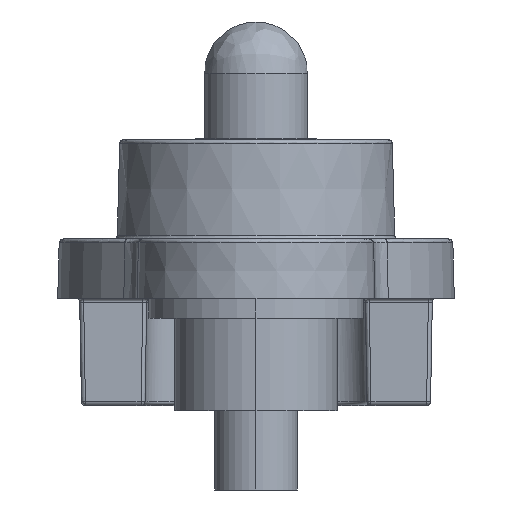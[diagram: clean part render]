
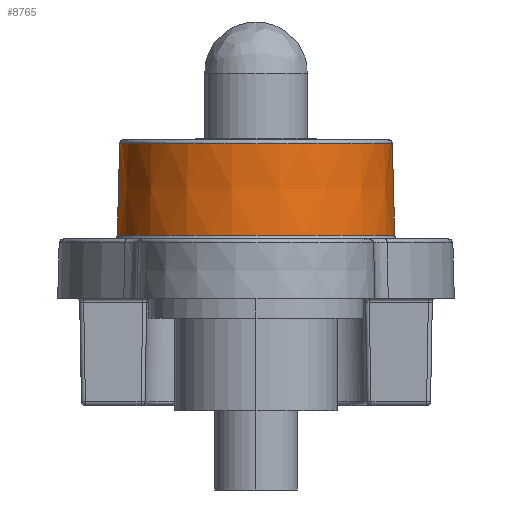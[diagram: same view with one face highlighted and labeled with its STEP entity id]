
A CAD part, left-side view. The second image highlights one B-rep face of the part: STEP entity #8765.
In plain terms, the highlighted conical face has half-angle 1.5 degrees and reference radius 3.497 mm.
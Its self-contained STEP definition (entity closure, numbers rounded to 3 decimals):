
#286 = DIRECTION ( 'NONE',  ( 0., 0., -1. ) ) ;
#749 = DIRECTION ( 'NONE',  ( 0., 1., 0. ) ) ;
#1130 = ORIENTED_EDGE ( 'NONE', *, *, #11495, .T. ) ;
#1352 = CARTESIAN_POINT ( 'NONE',  ( 28., 1.5, -3.5 ) ) ;
#1934 = CARTESIAN_POINT ( 'NONE',  ( 28., 3.903, 3.437 ) ) ;
#2039 = CARTESIAN_POINT ( 'NONE',  ( 28., 1.597, -3.497 ) ) ;
#2046 = VECTOR ( 'NONE', #2456, 1000. ) ;
#2456 = DIRECTION ( 'NONE',  ( 0., -1., 0.026 ) ) ;
#2663 = LINE ( 'NONE', #5528, #2046 ) ;
#2988 = ORIENTED_EDGE ( 'NONE', *, *, #11739, .F. ) ;
#3366 = CONICAL_SURFACE ( 'NONE', #10012, 3.497, 0.026 ) ;
#3449 = VECTOR ( 'NONE', #5315, 1000. ) ;
#4576 = CARTESIAN_POINT ( 'NONE',  ( 28., 3.903, -3.437 ) ) ;
#4643 = CARTESIAN_POINT ( 'NONE',  ( 28., 1.597, 0. ) ) ;
#5195 = DIRECTION ( 'NONE',  ( 0., -1., 0. ) ) ;
#5315 = DIRECTION ( 'NONE',  ( 0., -1., -0.026 ) ) ;
#5448 = VERTEX_POINT ( 'NONE', #1934 ) ;
#5528 = CARTESIAN_POINT ( 'NONE',  ( 28., -499000., 13070.314 ) ) ;
#5998 = CIRCLE ( 'NONE', #10768, 3.497 ) ;
#6355 = CIRCLE ( 'NONE', #8032, 3.437 ) ;
#7187 = DIRECTION ( 'NONE',  ( 0., -1., 0. ) ) ;
#7259 = EDGE_CURVE ( 'NONE', #10827, #9933, #5998, .T. ) ;
#7288 = CARTESIAN_POINT ( 'NONE',  ( 28., 1.597, 0. ) ) ;
#7540 = EDGE_CURVE ( 'NONE', #5448, #10827, #2663, .T. ) ;
#7713 = DIRECTION ( 'NONE',  ( 0., 0., -1. ) ) ;
#8032 = AXIS2_PLACEMENT_3D ( 'NONE', #12007, #7187, #286 ) ;
#8536 = CARTESIAN_POINT ( 'NONE',  ( 28., 1.597, 3.497 ) ) ;
#8765 = ADVANCED_FACE ( 'NONE', ( #10151 ), #3366, .T. ) ;
#9933 = VERTEX_POINT ( 'NONE', #2039 ) ;
#10012 = AXIS2_PLACEMENT_3D ( 'NONE', #7288, #5195, #11207 ) ;
#10151 = FACE_OUTER_BOUND ( 'NONE', #12619, .T. ) ;
#10768 = AXIS2_PLACEMENT_3D ( 'NONE', #4643, #749, #7713 ) ;
#10827 = VERTEX_POINT ( 'NONE', #8536 ) ;
#11156 = LINE ( 'NONE', #1352, #3449 ) ;
#11205 = ORIENTED_EDGE ( 'NONE', *, *, #7259, .T. ) ;
#11207 = DIRECTION ( 'NONE',  ( 0., 0., -1. ) ) ;
#11495 = EDGE_CURVE ( 'NONE', #12074, #5448, #6355, .T. ) ;
#11739 = EDGE_CURVE ( 'NONE', #12074, #9933, #11156, .T. ) ;
#12007 = CARTESIAN_POINT ( 'NONE',  ( 28., 3.903, 0. ) ) ;
#12074 = VERTEX_POINT ( 'NONE', #4576 ) ;
#12367 = ORIENTED_EDGE ( 'NONE', *, *, #7540, .T. ) ;
#12619 = EDGE_LOOP ( 'NONE', ( #2988, #1130, #12367, #11205 ) ) ;
